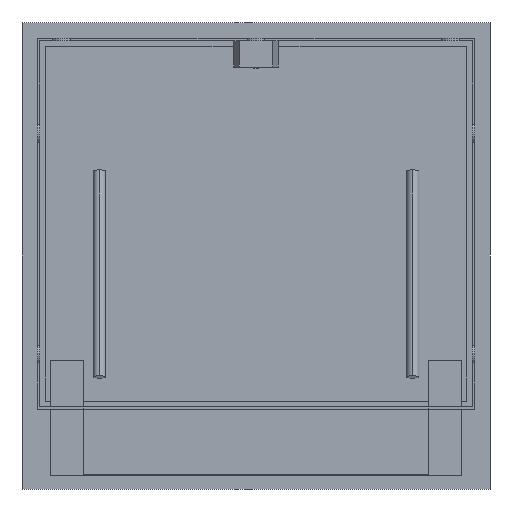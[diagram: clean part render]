
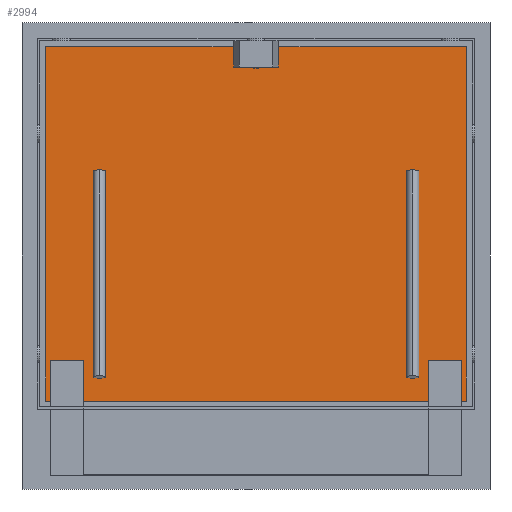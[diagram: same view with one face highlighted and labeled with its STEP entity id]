
A CAD part, front view. The second image highlights one B-rep face of the part: STEP entity #2994.
In plain terms, the highlighted planar face has unit normal (0, -1, 0).
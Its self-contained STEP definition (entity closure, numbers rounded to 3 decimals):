
#723=DIRECTION('',(0.,0.,-1.));
#724=VECTOR('',#723,91.5);
#725=CARTESIAN_POINT('',(390.,-66.,-310.));
#726=LINE('',#725,#724);
#739=CARTESIAN_POINT('',(0.,-66.,380.));
#740=DIRECTION('',(0.,1.,0.));
#741=DIRECTION('',(1.,0.,0.));
#742=AXIS2_PLACEMENT_3D('',#739,#740,#741);
#744=CARTESIAN_POINT('',(0.,-66.,380.));
#745=DIRECTION('',(0.,1.,0.));
#746=DIRECTION('',(0.641,0.,0.768));
#747=AXIS2_PLACEMENT_3D('',#744,#745,#746);
#749=DIRECTION('',(-1.,0.,0.));
#750=VECTOR('',#749,458.563);
#751=CARTESIAN_POINT('',(476.5,-66.,401.5));
#752=LINE('',#751,#750);
#753=DIRECTION('',(0.,0.,1.));
#754=VECTOR('',#753,803.);
#755=CARTESIAN_POINT('',(476.5,-66.,-401.5));
#756=LINE('',#755,#754);
#757=DIRECTION('',(1.,0.,0.));
#758=VECTOR('',#757,11.5);
#759=CARTESIAN_POINT('',(465.,-66.,-401.5));
#760=LINE('',#759,#758);
#761=DIRECTION('',(1.,0.,0.));
#762=VECTOR('',#761,780.);
#763=CARTESIAN_POINT('',(-390.,-66.,-401.5));
#764=LINE('',#763,#762);
#765=DIRECTION('',(1.,0.,0.));
#766=VECTOR('',#765,11.5);
#767=CARTESIAN_POINT('',(-476.5,-66.,-401.5));
#768=LINE('',#767,#766);
#769=DIRECTION('',(0.,0.,-1.));
#770=VECTOR('',#769,803.);
#771=CARTESIAN_POINT('',(-476.5,-66.,401.5));
#772=LINE('',#771,#770);
#773=DIRECTION('',(-1.,0.,0.));
#774=VECTOR('',#773,458.563);
#775=CARTESIAN_POINT('',(-17.937,-66.,401.5));
#776=LINE('',#775,#774);
#777=CARTESIAN_POINT('',(0.,-66.,380.));
#778=DIRECTION('',(0.,1.,0.));
#779=DIRECTION('',(-1.,0.,0.));
#780=AXIS2_PLACEMENT_3D('',#777,#778,#779);
#949=DIRECTION('',(0.,0.,-1.));
#950=VECTOR('',#949,91.5);
#951=CARTESIAN_POINT('',(-465.,-66.,-310.));
#952=LINE('',#951,#950);
#957=DIRECTION('',(-1.,0.,0.));
#958=VECTOR('',#957,75.);
#959=CARTESIAN_POINT('',(-390.,-66.,-310.));
#960=LINE('',#959,#958);
#969=DIRECTION('',(0.,0.,-1.));
#970=VECTOR('',#969,91.5);
#971=CARTESIAN_POINT('',(-390.,-66.,-310.));
#972=LINE('',#971,#970);
#1021=DIRECTION('',(0.,0.,-1.));
#1022=VECTOR('',#1021,91.5);
#1023=CARTESIAN_POINT('',(465.,-66.,-310.));
#1024=LINE('',#1023,#1022);
#1073=DIRECTION('',(1.,0.,0.));
#1074=VECTOR('',#1073,75.);
#1075=CARTESIAN_POINT('',(390.,-66.,-310.));
#1076=LINE('',#1075,#1074);
#1715=CARTESIAN_POINT('',(-476.5,-66.,401.5));
#1716=CARTESIAN_POINT('',(-476.5,-66.,-401.5));
#1717=VERTEX_POINT('',#1715);
#1718=VERTEX_POINT('',#1716);
#1719=CARTESIAN_POINT('',(476.5,-66.,-401.5));
#1720=CARTESIAN_POINT('',(476.5,-66.,401.5));
#1721=VERTEX_POINT('',#1719);
#1722=VERTEX_POINT('',#1720);
#1755=CARTESIAN_POINT('',(28.,-66.,380.));
#1756=CARTESIAN_POINT('',(-28.,-66.,380.));
#1757=VERTEX_POINT('',#1755);
#1758=VERTEX_POINT('',#1756);
#1759=CARTESIAN_POINT('',(-17.937,-66.,401.5));
#1760=VERTEX_POINT('',#1759);
#1761=CARTESIAN_POINT('',(17.937,-66.,401.5));
#1762=VERTEX_POINT('',#1761);
#1815=CARTESIAN_POINT('',(-390.,-66.,-310.));
#1816=CARTESIAN_POINT('',(-390.,-66.,-401.5));
#1817=VERTEX_POINT('',#1815);
#1818=VERTEX_POINT('',#1816);
#1819=CARTESIAN_POINT('',(-465.,-66.,-310.));
#1820=VERTEX_POINT('',#1819);
#1821=CARTESIAN_POINT('',(390.,-66.,-310.));
#1822=CARTESIAN_POINT('',(465.,-66.,-310.));
#1823=VERTEX_POINT('',#1821);
#1824=VERTEX_POINT('',#1822);
#1825=CARTESIAN_POINT('',(390.,-66.,-401.5));
#1826=VERTEX_POINT('',#1825);
#1827=CARTESIAN_POINT('',(-465.,-66.,-401.5));
#1828=VERTEX_POINT('',#1827);
#2021=CARTESIAN_POINT('',(465.,-66.,-401.5));
#2022=VERTEX_POINT('',#2021);
#2956=CARTESIAN_POINT('',(0.,-66.,0.));
#2957=DIRECTION('',(0.,-1.,0.));
#2958=DIRECTION('',(1.,0.,0.));
#2959=AXIS2_PLACEMENT_3D('',#2956,#2957,#2958);
#2960=PLANE('',#2959);
#2962=ORIENTED_EDGE('',*,*,#2961,.F.);
#2964=ORIENTED_EDGE('',*,*,#2963,.F.);
#2966=ORIENTED_EDGE('',*,*,#2965,.F.);
#2968=ORIENTED_EDGE('',*,*,#2967,.F.);
#2970=ORIENTED_EDGE('',*,*,#2969,.F.);
#2972=ORIENTED_EDGE('',*,*,#2971,.F.);
#2974=ORIENTED_EDGE('',*,*,#2973,.F.);
#2975=ORIENTED_EDGE('',*,*,#2917,.T.);
#2977=ORIENTED_EDGE('',*,*,#2976,.F.);
#2979=ORIENTED_EDGE('',*,*,#2978,.F.);
#2981=ORIENTED_EDGE('',*,*,#2980,.T.);
#2983=ORIENTED_EDGE('',*,*,#2982,.T.);
#2985=ORIENTED_EDGE('',*,*,#2984,.F.);
#2987=ORIENTED_EDGE('',*,*,#2986,.F.);
#2989=ORIENTED_EDGE('',*,*,#2988,.F.);
#2991=ORIENTED_EDGE('',*,*,#2990,.F.);
#2992=EDGE_LOOP('',(#2962,#2964,#2966,#2968,#2970,#2972,#2974,#2975,#2977,#2979,
#2981,#2983,#2985,#2987,#2989,#2991));
#2993=FACE_OUTER_BOUND('',#2992,.F.);
#743=CIRCLE('',#742,28.);
#748=CIRCLE('',#747,28.);
#781=CIRCLE('',#780,28.);
#2917=EDGE_CURVE('',#1823,#1826,#726,.T.);
#2961=EDGE_CURVE('',#1757,#1758,#743,.T.);
#2963=EDGE_CURVE('',#1762,#1757,#748,.T.);
#2965=EDGE_CURVE('',#1722,#1762,#752,.T.);
#2967=EDGE_CURVE('',#1721,#1722,#756,.T.);
#2969=EDGE_CURVE('',#2022,#1721,#760,.T.);
#2971=EDGE_CURVE('',#1824,#2022,#1024,.T.);
#2973=EDGE_CURVE('',#1823,#1824,#1076,.T.);
#2976=EDGE_CURVE('',#1818,#1826,#764,.T.);
#2978=EDGE_CURVE('',#1817,#1818,#972,.T.);
#2980=EDGE_CURVE('',#1817,#1820,#960,.T.);
#2982=EDGE_CURVE('',#1820,#1828,#952,.T.);
#2984=EDGE_CURVE('',#1718,#1828,#768,.T.);
#2986=EDGE_CURVE('',#1717,#1718,#772,.T.);
#2988=EDGE_CURVE('',#1760,#1717,#776,.T.);
#2990=EDGE_CURVE('',#1758,#1760,#781,.T.);
#2994=ADVANCED_FACE('',(#2993),#2960,.T.);
